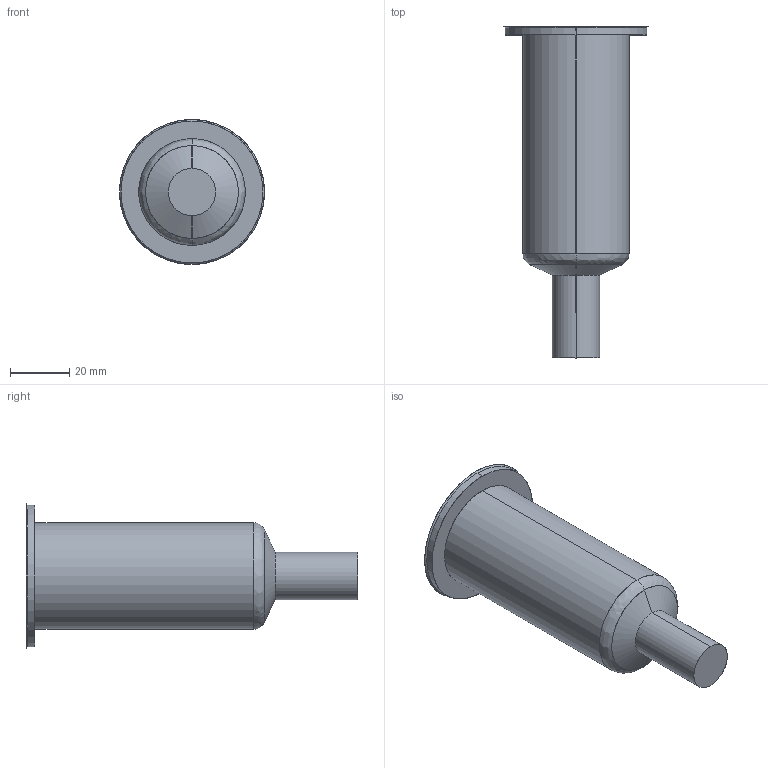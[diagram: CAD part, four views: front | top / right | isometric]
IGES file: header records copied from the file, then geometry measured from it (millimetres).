
Start section: SolidWorks IGES file using analytic representation for surfaces
Global section: file name: C:\Documents and Settings\ws-20\Desktop\TEMPORANEA\Sede UGBE5002-M-A C-84 L-104 P-25.IGS; native system: SolidWorks 2012; preprocessor: SolidWorks 2012; author: ws-20; date: 120307.090734; units: millimetre
Bounding box: 49 x 112.21 x 49 mm (x, y, z)
Surface area: 14261.5 mm2 (no closed solid volume)
Topology: 0 solids, 0 shells, 15 faces, 272 edges, 272 vertices
Faces by surface type: revolution 10, bspline 5
